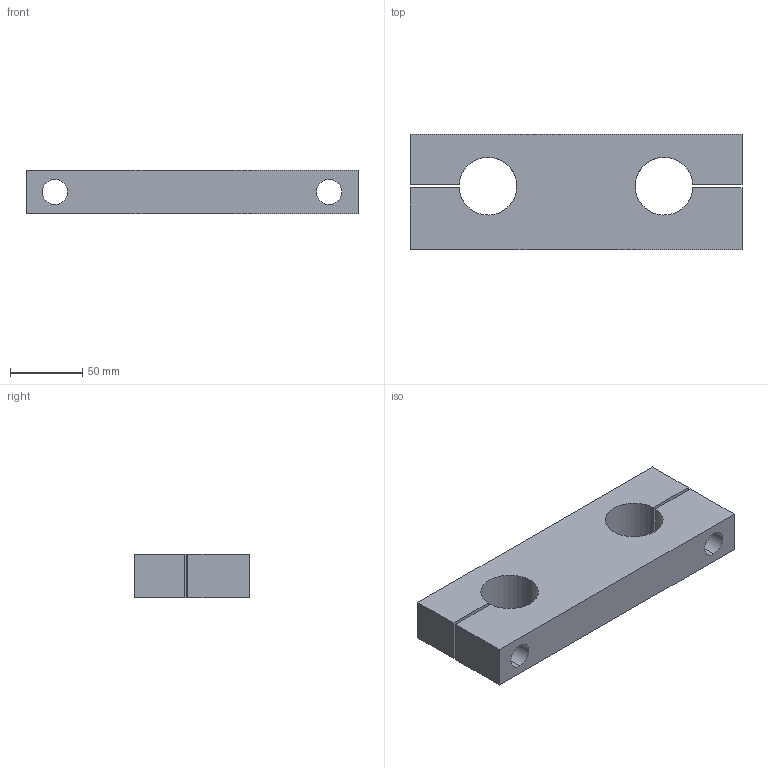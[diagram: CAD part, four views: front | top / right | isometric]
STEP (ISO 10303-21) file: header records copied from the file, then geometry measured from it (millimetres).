
FILE_DESCRIPTION (( 'STEP AP214' ), '1' );
FILE_NAME ('KTA-40.step', '2020-03-04T13:38:06', ( '' ), ( '' ), 'SwSTEP 2.0', 'SolidWorks 2019', '' );
FILE_SCHEMA (( 'AUTOMOTIVE_DESIGN' ));
Length unit declared in the file: millimetre
Products named in the file (1): KTA-40
Bounding box: 230 x 80 x 30 mm (x, y, z)
Volume: 422550.5 mm3; surface area: 69221.7 mm2
Topology: 1 solids, 1 shells, 35 faces, 89 edges, 57 vertices
Faces by surface type: cylinder 17, plane 14, cone 4
Entity records: 1103 total; most frequent: DIRECTION 195, CARTESIAN_POINT 180, ORIENTED_EDGE 174, EDGE_CURVE 87, AXIS2_PLACEMENT_3D 72, VERTEX_POINT 57, VECTOR 51, LINE 51
